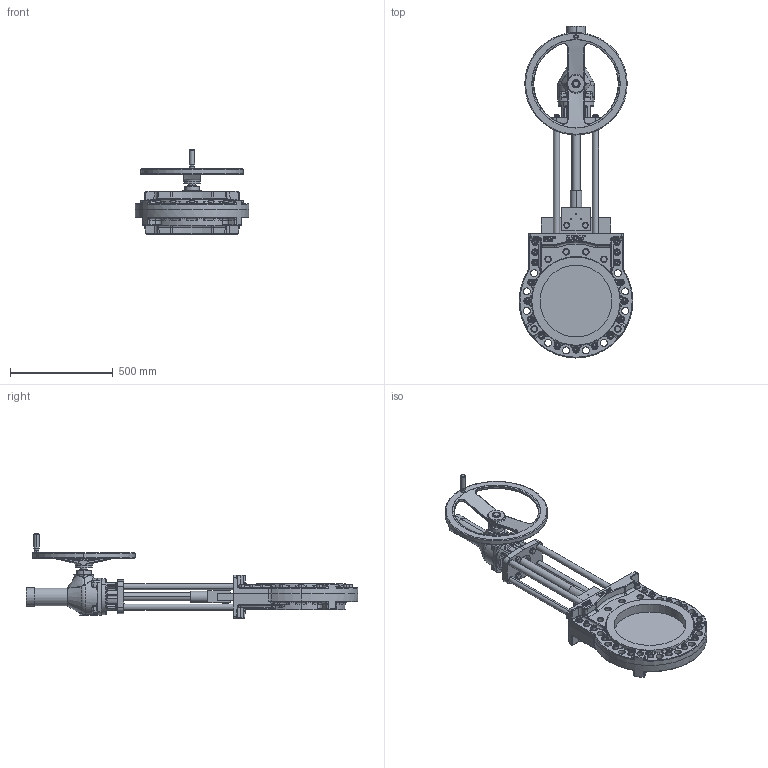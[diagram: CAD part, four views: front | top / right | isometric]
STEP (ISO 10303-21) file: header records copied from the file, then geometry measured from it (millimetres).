
FILE_DESCRIPTION (( 'STEP AP214' ), '1' );
FILE_NAME ('MHA DN 350 GK14.2.STEP', '2015-04-28T08:51:06', ( 'admin' ), ( 'Hewlett-Packard Company' ), 'SwSTEP 2.0', 'SolidWorks 2013', '' );
FILE_SCHEMA (( 'AUTOMOTIVE_DESIGN' ));
Length unit declared in the file: millimetre
Products named in the file (1): MHA DN 350 GK14.2
Bounding box: 555 x 1619 x 414.75 mm (x, y, z)
Volume: 33981354.8 mm3; surface area: 2443957.4 mm2
Topology: 54 solids, 69 shells, 3138 faces, 7549 edges, 4492 vertices
Faces by surface type: plane 1009, cylinder 836, bspline 519, cone 420, torus 344, sphere 10
Entity records: 151131 total; most frequent: CARTESIAN_POINT 46206, ORIENTED_EDGE 14622, DIRECTION 14475, EDGE_CURVE 7311, AXIS2_PLACEMENT_3D 5706, VERTEX_POINT 4492, EDGE_LOOP 3435, UNCERTAINTY_MEASURE_WITH_UNIT 3192
